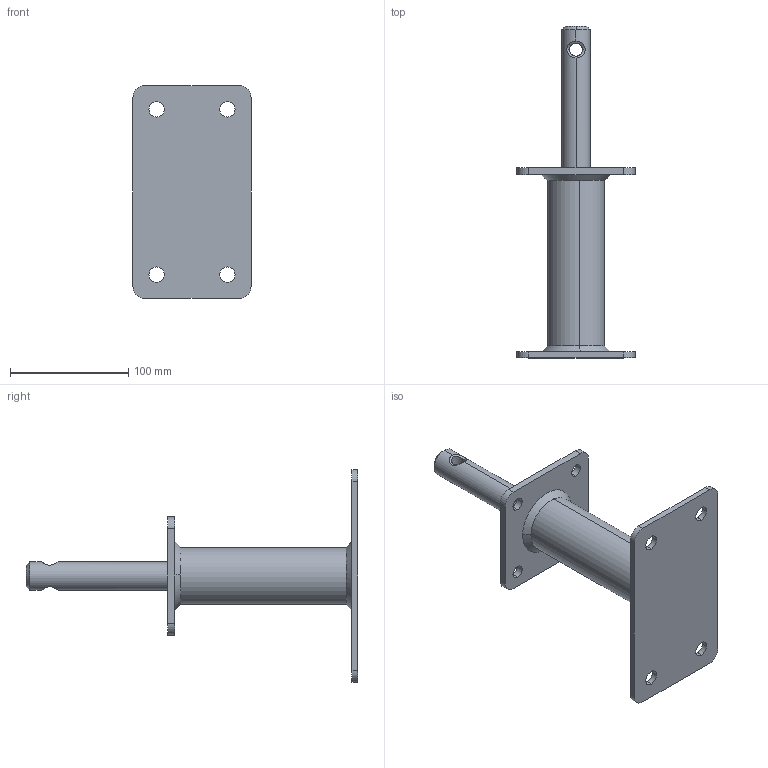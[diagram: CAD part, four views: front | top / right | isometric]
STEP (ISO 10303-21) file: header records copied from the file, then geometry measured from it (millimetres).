
FILE_DESCRIPTION (( 'STEP AP203' ), '1' );
FILE_NAME ('19823150.STEP', '2021-04-19T16:51:37', ( '' ), ( '' ), 'SwSTEP 2.0', 'SolidWorks 2013', '' );
FILE_SCHEMA (( 'CONFIG_CONTROL_DESIGN' ));
Length unit declared in the file: millimetre
Products named in the file (6): Standrohr-48,3x150x3,25; Schweissnaht-d48mm; 24x120; 180x100x5-4xd13-abgerundet; 19823150; 100x100x6-4xd11-1xd21
Assembly tree (6 placements, depth 2):
  19823150
    180x100x5-4xd13-abgerundet
    Schweissnaht-d48mm  x2
    Standrohr-48,3x150x3,25
    100x100x6-4xd11-1xd21
    24x120
Bounding box: 100 x 281 x 180 mm (x, y, z)
Volume: 269158.3 mm3; surface area: 119706.6 mm2
Topology: 6 solids, 6 shells, 64 faces, 160 edges, 104 vertices
Faces by surface type: cylinder 36, plane 18, bspline 8, cone 2
Entity records: 6350 total; most frequent: CARTESIAN_POINT 4228, DIRECTION 314, ORIENTED_EDGE 300, EDGE_CURVE 150, AXIS2_PLACEMENT_3D 126, VERTEX_POINT 98, EDGE_LOOP 78, CIRCLE 64
